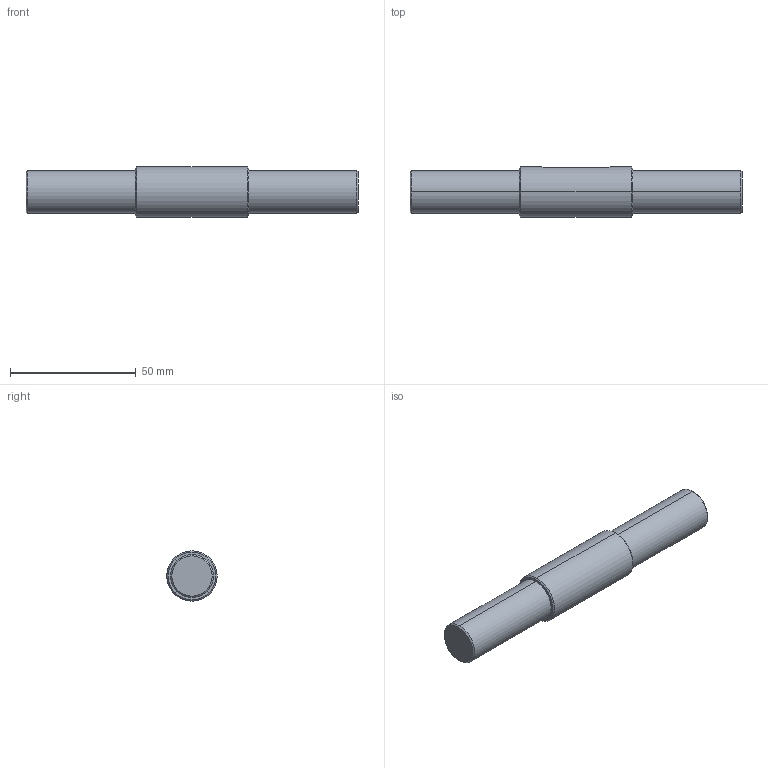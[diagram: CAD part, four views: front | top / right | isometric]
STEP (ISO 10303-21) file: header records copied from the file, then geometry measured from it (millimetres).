
FILE_DESCRIPTION (( 'STEP AP214' ), '1' );
FILE_NAME ('1.8043 Akseli D20_17 L132 kiila 6x28.STEP', '2024-03-15T10:26:23', ( '' ), ( '' ), 'SwSTEP 2.0', 'SolidWorks 2024', '' );
FILE_SCHEMA (( 'AUTOMOTIVE_DESIGN' ));
Length unit declared in the file: millimetre
Products named in the file (1): 1.8043 Akseli D20_17 L132 kiila 6x28
Bounding box: 132 x 20 x 20 mm (x, y, z)
Volume: 33318.2 mm3; surface area: 8225.8 mm2
Topology: 1 solids, 1 shells, 23 faces, 46 edges, 28 vertices
Faces by surface type: cone 8, cylinder 8, plane 7
Entity records: 679 total; most frequent: CARTESIAN_POINT 160, DIRECTION 114, ORIENTED_EDGE 92, EDGE_CURVE 46, AXIS2_PLACEMENT_3D 46, VERTEX_POINT 28, EDGE_LOOP 26, FACE_OUTER_BOUND 23
